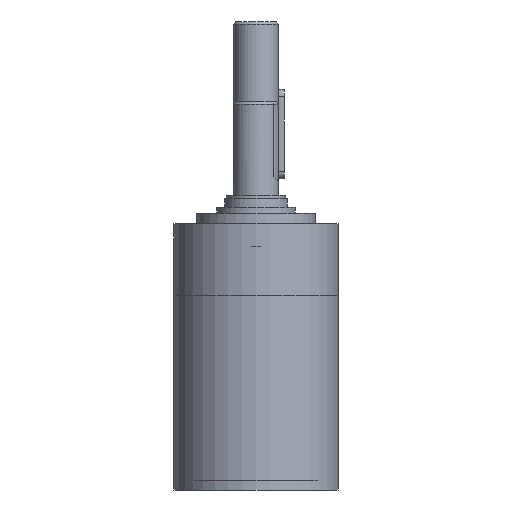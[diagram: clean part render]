
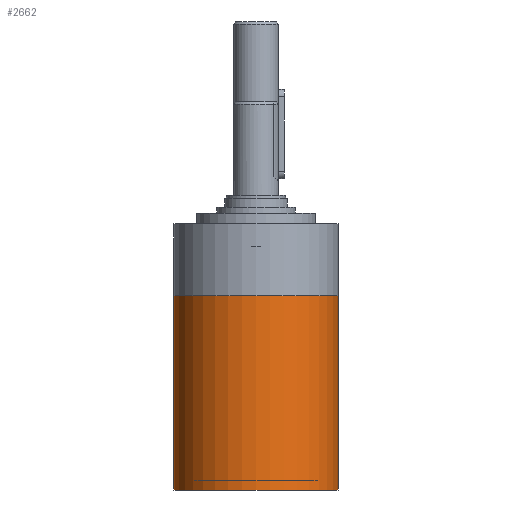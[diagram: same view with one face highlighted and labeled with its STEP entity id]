
A CAD part, left-side view. The second image highlights one B-rep face of the part: STEP entity #2662.
In plain terms, the highlighted cylindrical face has radius 11 mm (diameter 22 mm), a full revolution.
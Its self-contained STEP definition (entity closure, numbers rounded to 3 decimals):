
#2662=ADVANCED_FACE('',(#3353,#3354),#3180,.T.);
#3180=CYLINDRICAL_SURFACE('',#8344,11.);
#3353=FACE_BOUND('',#3914,.T.);
#3354=FACE_BOUND('',#3915,.T.);
#3914=EDGE_LOOP('',(#4746));
#3915=EDGE_LOOP('',(#4747));
#4746=ORIENTED_EDGE('',*,*,#7134,.F.);
#4747=ORIENTED_EDGE('',*,*,#7135,.T.);
#6462=VERTEX_POINT('',#10813);
#6463=VERTEX_POINT('',#10815);
#7134=EDGE_CURVE('',#6462,#6462,#7992,.T.);
#7135=EDGE_CURVE('',#6463,#6463,#7993,.T.);
#7992=CIRCLE('',#8342,11.);
#7993=CIRCLE('',#8343,11.);
#8342=AXIS2_PLACEMENT_3D('',#10812,#9127,#9128);
#8343=AXIS2_PLACEMENT_3D('',#10814,#9129,#9130);
#8344=AXIS2_PLACEMENT_3D('',#10816,#9131,#9132);
#9127=DIRECTION('',(0.,0.,-1.));
#9128=DIRECTION('',(1.,0.,0.));
#9129=DIRECTION('',(0.,0.,-1.));
#9130=DIRECTION('',(1.,0.,0.));
#9131=DIRECTION('',(0.,0.,1.));
#9132=DIRECTION('',(1.,0.,0.));
#10812=CARTESIAN_POINT('',(0.,0.,0.));
#10813=CARTESIAN_POINT('',(11.,0.,0.));
#10814=CARTESIAN_POINT('',(0.,0.,25.999));
#10815=CARTESIAN_POINT('',(11.,0.,25.999));
#10816=CARTESIAN_POINT('',(0.,0.,26.));
